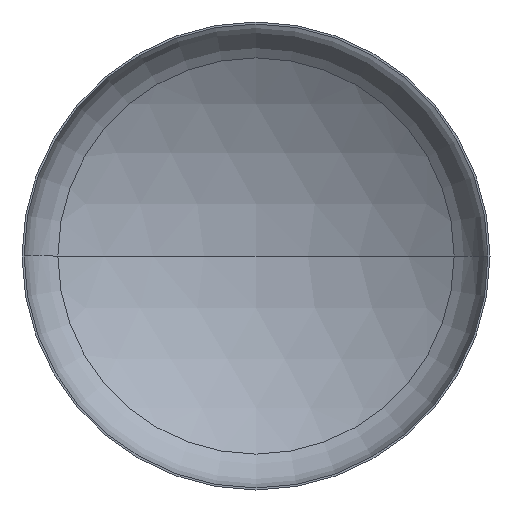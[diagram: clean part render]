
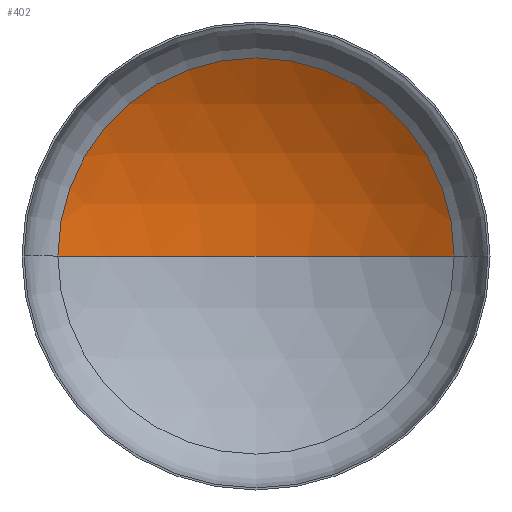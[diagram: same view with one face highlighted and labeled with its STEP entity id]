
A CAD part, front view. The second image highlights one B-rep face of the part: STEP entity #402.
In plain terms, the highlighted spherical face has radius 4400 mm.
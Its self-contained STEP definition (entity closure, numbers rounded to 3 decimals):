
#4 = DIRECTION ( 'NONE',  ( -1., 0., 0. ) ) ;
#8 = VERTEX_POINT ( 'NONE', #76 ) ;
#14 = EDGE_CURVE ( 'NONE', #235, #8, #370, .T. ) ;
#33 = SPHERICAL_SURFACE ( 'NONE', #311, 4400. ) ;
#36 = CARTESIAN_POINT ( 'NONE',  ( 0., -2941.598, 0. ) ) ;
#71 = DIRECTION ( 'NONE',  ( 0., 0., -1. ) ) ;
#76 = CARTESIAN_POINT ( 'NONE',  ( -2328.101, 792.025, 0. ) ) ;
#86 = CIRCLE ( 'NONE', #144, 2328.101 ) ;
#88 = ORIENTED_EDGE ( 'NONE', *, *, #184, .T. ) ;
#124 = CARTESIAN_POINT ( 'NONE',  ( 0., 792.025, 0. ) ) ;
#129 = FACE_OUTER_BOUND ( 'NONE', #181, .T. ) ;
#142 = CARTESIAN_POINT ( 'NONE',  ( 0., -2941.598, 0. ) ) ;
#144 = AXIS2_PLACEMENT_3D ( 'NONE', #124, #349, #157 ) ;
#157 = DIRECTION ( 'NONE',  ( 1., 0., 0. ) ) ;
#181 = EDGE_LOOP ( 'NONE', ( #299, #312, #88 ) ) ;
#184 = EDGE_CURVE ( 'NONE', #315, #8, #86, .T. ) ;
#205 = DIRECTION ( 'NONE',  ( 0., 0., -1. ) ) ;
#235 = VERTEX_POINT ( 'NONE', #407 ) ;
#277 = AXIS2_PLACEMENT_3D ( 'NONE', #386, #205, #4 ) ;
#299 = ORIENTED_EDGE ( 'NONE', *, *, #14, .F. ) ;
#306 = DIRECTION ( 'NONE',  ( 1., 0., 0. ) ) ;
#309 = DIRECTION ( 'NONE',  ( 0., 0., 1. ) ) ;
#311 = AXIS2_PLACEMENT_3D ( 'NONE', #36, #71, #382 ) ;
#312 = ORIENTED_EDGE ( 'NONE', *, *, #409, .T. ) ;
#313 = CIRCLE ( 'NONE', #277, 4400. ) ;
#315 = VERTEX_POINT ( 'NONE', #354 ) ;
#325 = AXIS2_PLACEMENT_3D ( 'NONE', #142, #309, #306 ) ;
#349 = DIRECTION ( 'NONE',  ( 0., -1., 0. ) ) ;
#354 = CARTESIAN_POINT ( 'NONE',  ( 2328.101, 792.025, 0. ) ) ;
#370 = CIRCLE ( 'NONE', #325, 4400. ) ;
#382 = DIRECTION ( 'NONE',  ( -1., 0., 0. ) ) ;
#386 = CARTESIAN_POINT ( 'NONE',  ( 0., -2941.598, 0. ) ) ;
#402 = ADVANCED_FACE ( 'NONE', ( #129 ), #33, .F. ) ;
#407 = CARTESIAN_POINT ( 'NONE',  ( 0., 1458.402, 0. ) ) ;
#409 = EDGE_CURVE ( 'NONE', #235, #315, #313, .T. ) ;
